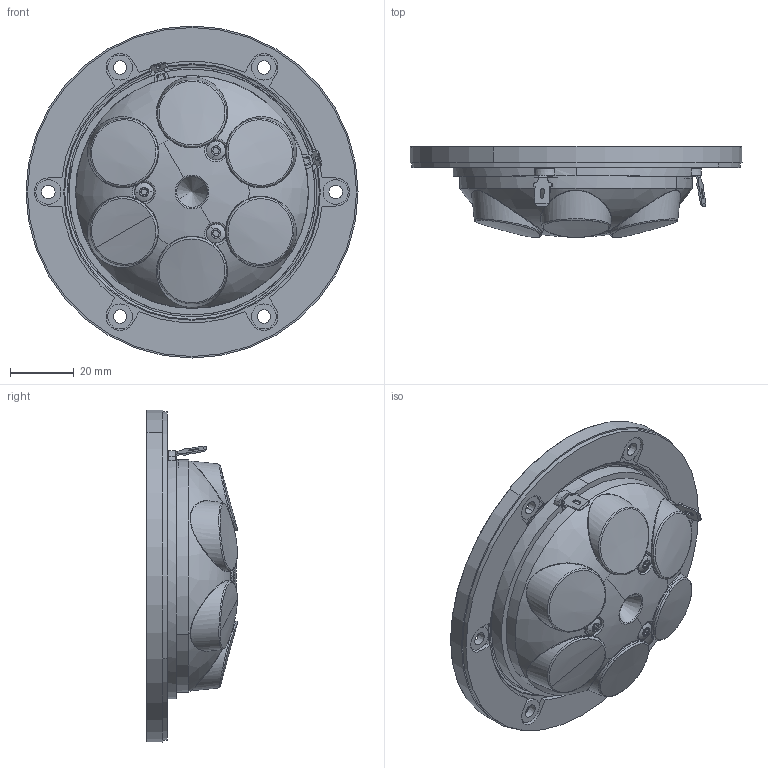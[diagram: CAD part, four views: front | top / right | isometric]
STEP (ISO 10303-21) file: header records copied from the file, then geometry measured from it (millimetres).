
FILE_DESCRIPTION (( 'STEP AP214' ), '1' );
FILE_NAME ('D3004-664000.STEP', '2020-10-29T06:31:51', ( '' ), ( '' ), 'SwSTEP 2.0', 'SolidWorks 2019', '' );
FILE_SCHEMA (( 'AUTOMOTIVE_DESIGN' ));
Length unit declared in the file: millimetre
Products named in the file (1): D3004-664000
Bounding box: 103.97 x 28.42 x 103.97 mm (x, y, z)
Volume: 111052.2 mm3; surface area: 34849.3 mm2
Topology: 1 solids, 17 shells, 2035 faces, 6026 edges, 3965 vertices
Faces by surface type: plane 1380, cylinder 275, bspline 147, cone 121, torus 72, sphere 40
Entity records: 112715 total; most frequent: CARTESIAN_POINT 34430, DIRECTION 12315, ORIENTED_EDGE 12044, EDGE_CURVE 6022, AXIS2_PLACEMENT_3D 5277, VERTEX_POINT 3965, CIRCLE 3388, EDGE_LOOP 2439
